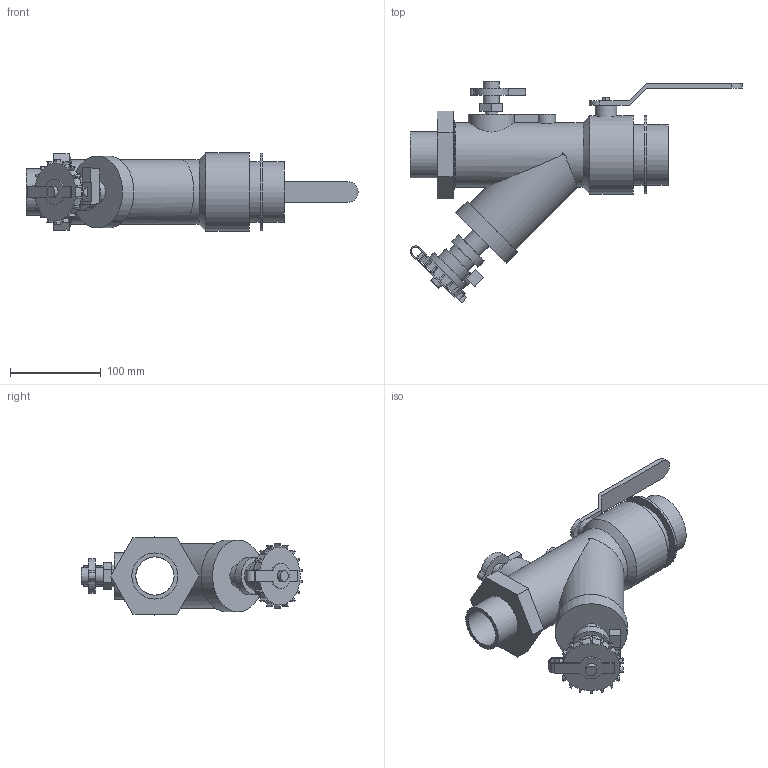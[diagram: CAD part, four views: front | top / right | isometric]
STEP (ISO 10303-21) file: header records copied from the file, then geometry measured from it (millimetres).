
FILE_DESCRIPTION(/* description */ ('VIC Y-STRAINER/BALL SERIES 78Y (FPT)','CAx-IF Rec.Pracs.---Representation and Presentation of Product Manufacturing Information (PMI)---4.0---2014-10-13'),/* implementation_level */ '2;1');
FILE_NAME(/* name */ 'C:\Users\kkamble\Desktop\extraction\OldVersions\Victaulic_IPS_Valve Ball Y Strainer Combination_Series 78Y (FPT)\Victaulic_IPS_Valve Ball Y Strainer Combination_Series 78Y (FPT)_02.0x01.25 (50x32).stp',/* time_stamp */ '2020-10-19T10:39:43+05:00',/* author */ ('kkamble'),/* organization */ ('Victaulic'),/* preprocessor_version */ 'ST-DEVELOPER v17.2',/* originating_system */ 'Autodesk Inventor 2019',/* authorisation */ '');
FILE_SCHEMA (('AP242_MANAGED_MODEL_BASED_3D_ENGINEERING_MIM_LF { 1 0 10303 442 1 1 4 }'));
Length unit declared in the file: inch
Products named in the file (1): 78Y-2.0x1.25
Bounding box: 365.76 x 243.49 x 86.11 mm (x, y, z)
Volume: 785484.7 mm3; surface area: 229397.5 mm2
Topology: 4 solids, 5 shells, 220 faces, 589 edges, 395 vertices
Faces by surface type: plane 151, cylinder 67, cone 2
Full cylindrical faces by diameter (mm): 10.16 x1, 12.565 x1, 13.462 x3, 16.002 x1, 17.78 x3, 23.876 x1, 25.4 x1, 27.94 x1, 30.48 x1, 38.1 x1, 40.64 x1, 42.164 x2, 50.8 x2, 60.325 x2, 63.5 x1, 67.056 x2, 71.374 x1, 71.501 x1, 76.2 x1, 79.248 x1, 85.852 x1, 86.106 x1
Entity records: 7940 total; most frequent: CARTESIAN_POINT 2031, DIRECTION 1216, ORIENTED_EDGE 1178, EDGE_CURVE 589, AXIS2_PLACEMENT_3D 433, VERTEX_POINT 395, LINE 350, VECTOR 350
